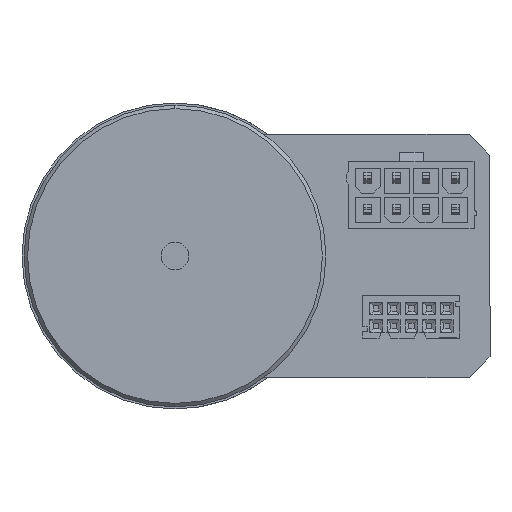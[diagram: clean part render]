
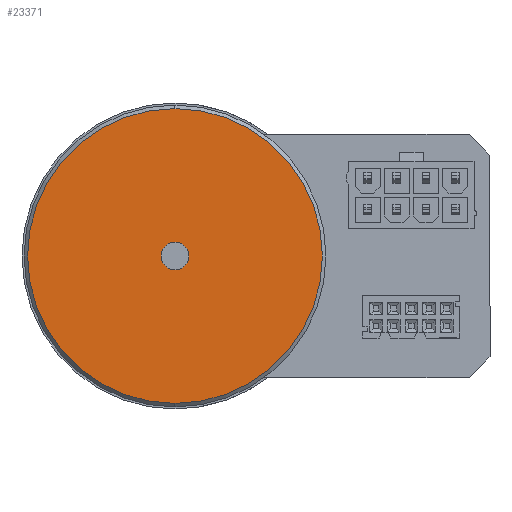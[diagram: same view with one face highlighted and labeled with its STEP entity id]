
A CAD part, left-side view. The second image highlights one B-rep face of the part: STEP entity #23371.
In plain terms, the highlighted planar face has unit normal (-1, 0, 0) as drawn and (1, 0, 0) by its records, which use the part's own axes.
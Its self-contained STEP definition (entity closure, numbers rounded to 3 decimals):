
#266 = EDGE_CURVE ( 'NONE', #23266, #3864, #24272, .T. ) ;
#1333 = CARTESIAN_POINT ( 'NONE',  ( 28.4, 21.7, 0. ) ) ;
#1494 = ORIENTED_EDGE ( 'NONE', *, *, #266, .T. ) ;
#1654 = DIRECTION ( 'NONE',  ( -1., 0., 0. ) ) ;
#3864 = VERTEX_POINT ( 'NONE', #32795 ) ;
#5630 = CARTESIAN_POINT ( 'NONE',  ( 28.4, 0., 21.2 ) ) ;
#7369 = PLANE ( 'NONE',  #31109 ) ;
#7505 = CARTESIAN_POINT ( 'NONE',  ( 28.4, 0., -21.2 ) ) ;
#8717 = DIRECTION ( 'NONE',  ( 1., 0., 0. ) ) ;
#9506 = CIRCLE ( 'NONE', #37960, 2. ) ;
#9915 = CARTESIAN_POINT ( 'NONE',  ( 28.4, 0., -2. ) ) ;
#10081 = AXIS2_PLACEMENT_3D ( 'NONE', #26830, #8717, #29874 ) ;
#10418 = DIRECTION ( 'NONE',  ( -1., 0., 0. ) ) ;
#11401 = AXIS2_PLACEMENT_3D ( 'NONE', #13242, #34368, #16276 ) ;
#11431 = CARTESIAN_POINT ( 'NONE',  ( 28.4, 0., 0. ) ) ;
#13173 = ORIENTED_EDGE ( 'NONE', *, *, #39076, .T. ) ;
#13242 = CARTESIAN_POINT ( 'NONE',  ( 28.4, 0., 0. ) ) ;
#13644 = CIRCLE ( 'NONE', #10081, 21.2 ) ;
#14442 = VERTEX_POINT ( 'NONE', #7505 ) ;
#14444 = DIRECTION ( 'NONE',  ( 0., 0., 1. ) ) ;
#15084 = AXIS2_PLACEMENT_3D ( 'NONE', #19740, #1654, #22760 ) ;
#16276 = DIRECTION ( 'NONE',  ( 0., 0., 1. ) ) ;
#18010 = ORIENTED_EDGE ( 'NONE', *, *, #25267, .T. ) ;
#18774 = VERTEX_POINT ( 'NONE', #5630 ) ;
#19740 = CARTESIAN_POINT ( 'NONE',  ( 28.4, 0., 0. ) ) ;
#20148 = FACE_BOUND ( 'NONE', #25944, .T. ) ;
#20404 = ORIENTED_EDGE ( 'NONE', *, *, #35299, .T. ) ;
#22760 = DIRECTION ( 'NONE',  ( 0., 0., 1. ) ) ;
#23266 = VERTEX_POINT ( 'NONE', #9915 ) ;
#23371 = ADVANCED_FACE ( 'NONE', ( #28202, #20148 ), #7369, .F. ) ;
#24272 = CIRCLE ( 'NONE', #15084, 2. ) ;
#25267 = EDGE_CURVE ( 'NONE', #14442, #18774, #34079, .T. ) ;
#25944 = EDGE_LOOP ( 'NONE', ( #13173, #1494 ) ) ;
#26510 = EDGE_LOOP ( 'NONE', ( #20404, #18010 ) ) ;
#26830 = CARTESIAN_POINT ( 'NONE',  ( 28.4, 0., 0. ) ) ;
#28202 = FACE_OUTER_BOUND ( 'NONE', #26510, .T. ) ;
#29874 = DIRECTION ( 'NONE',  ( 0., 0., 1. ) ) ;
#31109 = AXIS2_PLACEMENT_3D ( 'NONE', #1333, #10418, #31597 ) ;
#31597 = DIRECTION ( 'NONE',  ( 0., 0., 1. ) ) ;
#32576 = DIRECTION ( 'NONE',  ( -1., 0., 0. ) ) ;
#32795 = CARTESIAN_POINT ( 'NONE',  ( 28.4, 0., 2. ) ) ;
#34079 = CIRCLE ( 'NONE', #11401, 21.2 ) ;
#34368 = DIRECTION ( 'NONE',  ( 1., 0., 0. ) ) ;
#35299 = EDGE_CURVE ( 'NONE', #18774, #14442, #13644, .T. ) ;
#37960 = AXIS2_PLACEMENT_3D ( 'NONE', #11431, #32576, #14444 ) ;
#39076 = EDGE_CURVE ( 'NONE', #3864, #23266, #9506, .T. ) ;
